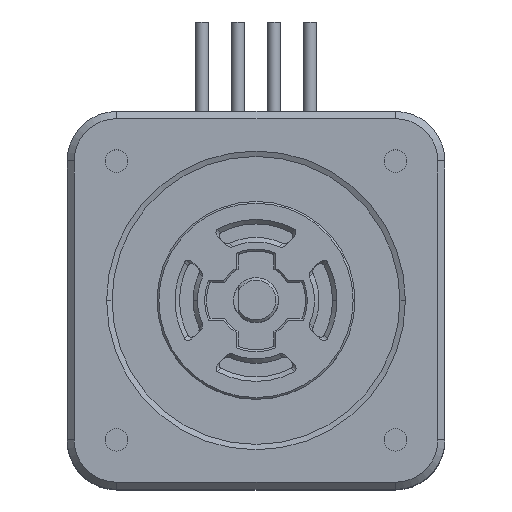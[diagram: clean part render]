
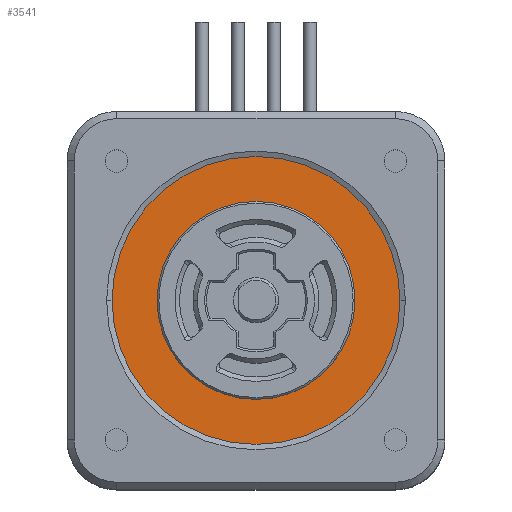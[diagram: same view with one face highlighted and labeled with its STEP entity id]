
A CAD part, top view. The second image highlights one B-rep face of the part: STEP entity #3541.
In plain terms, the highlighted planar face has unit normal (0, 0, 1).
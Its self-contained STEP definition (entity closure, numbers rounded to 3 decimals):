
#1104 = VERTEX_POINT ( 'NONE', #5009 ) ;
#1105 = VERTEX_POINT ( 'NONE', #5010 ) ;
#1108 = VERTEX_POINT ( 'NONE', #5013 ) ;
#1109 = VERTEX_POINT ( 'NONE', #5014 ) ;
#2089 = ORIENTED_EDGE ( 'NONE', *, *, #3230, .F. ) ;
#2092 = ORIENTED_EDGE ( 'NONE', *, *, #2764, .F. ) ;
#2095 = ORIENTED_EDGE ( 'NONE', *, *, #2754, .T. ) ;
#2096 = ORIENTED_EDGE ( 'NONE', *, *, #3233, .T. ) ;
#2754 = EDGE_CURVE ( 'NONE', #1104, #1105, #10322, .T. ) ;
#2764 = EDGE_CURVE ( 'NONE', #1108, #1109, #10421, .T. ) ;
#3230 = EDGE_CURVE ( 'NONE', #1109, #1108, #7612, .T. ) ;
#3233 = EDGE_CURVE ( 'NONE', #1105, #1104, #7593, .T. ) ;
#3541 = ADVANCED_FACE ( 'NONE', ( #7349, #7350 ), #9235, .T. ) ;
#4177 = EDGE_LOOP ( 'NONE', ( #2096, #2095 ) ) ;
#4188 = EDGE_LOOP ( 'NONE', ( #2089, #2092 ) ) ;
#5009 = CARTESIAN_POINT ( 'NONE',  ( -16., 0., -0.3 ) ) ;
#5010 = CARTESIAN_POINT ( 'NONE',  ( 16., 0., -0.3 ) ) ;
#5013 = CARTESIAN_POINT ( 'NONE',  ( 11., 0., -0.3 ) ) ;
#5014 = CARTESIAN_POINT ( 'NONE',  ( -11., 0., -0.3 ) ) ;
#5589 = CARTESIAN_POINT ( 'NONE',  ( 0., 0., -0.3 ) ) ;
#5590 = DIRECTION ( 'NONE',  ( 0., 0., 1. ) ) ;
#5591 = DIRECTION ( 'NONE',  ( 1., 0., 0. ) ) ;
#5614 = CARTESIAN_POINT ( 'NONE',  ( 0., 0., -0.3 ) ) ;
#5615 = DIRECTION ( 'NONE',  ( 0., 0., 1. ) ) ;
#5616 = DIRECTION ( 'NONE',  ( 1., 0., 0. ) ) ;
#6901 = CARTESIAN_POINT ( 'NONE',  ( 0., 0., -0.3 ) ) ;
#6902 = DIRECTION ( 'NONE',  ( 0., 0., 1. ) ) ;
#6903 = DIRECTION ( 'NONE',  ( 1., 0., 0. ) ) ;
#6909 = CARTESIAN_POINT ( 'NONE',  ( 0., 0., -0.3 ) ) ;
#6910 = DIRECTION ( 'NONE',  ( 0., 0., 1. ) ) ;
#6911 = DIRECTION ( 'NONE',  ( 1., 0., 0. ) ) ;
#7349 = FACE_BOUND ( 'NONE', #4188, .T. ) ;
#7350 = FACE_OUTER_BOUND ( 'NONE', #4177, .T. ) ;
#7593 = CIRCLE ( 'NONE', #7618, 16. ) ;
#7612 = CIRCLE ( 'NONE', #7614, 11. ) ;
#7614 = AXIS2_PLACEMENT_3D ( 'NONE', #6901, #6902, #6903 ) ;
#7618 = AXIS2_PLACEMENT_3D ( 'NONE', #6909, #6910, #6911 ) ;
#7994 = AXIS2_PLACEMENT_3D ( 'NONE', #9236, #9237, #9238 ) ;
#9235 = PLANE ( 'NONE',  #7994 ) ;
#9236 = CARTESIAN_POINT ( 'NONE',  ( 0., 0., -0.3 ) ) ;
#9237 = DIRECTION ( 'NONE',  ( 0., 0., 1. ) ) ;
#9238 = DIRECTION ( 'NONE',  ( 1., 0., 0. ) ) ;
#10322 = CIRCLE ( 'NONE', #10325, 16. ) ;
#10325 = AXIS2_PLACEMENT_3D ( 'NONE', #5589, #5590, #5591 ) ;
#10421 = CIRCLE ( 'NONE', #10423, 11. ) ;
#10423 = AXIS2_PLACEMENT_3D ( 'NONE', #5614, #5615, #5616 ) ;
